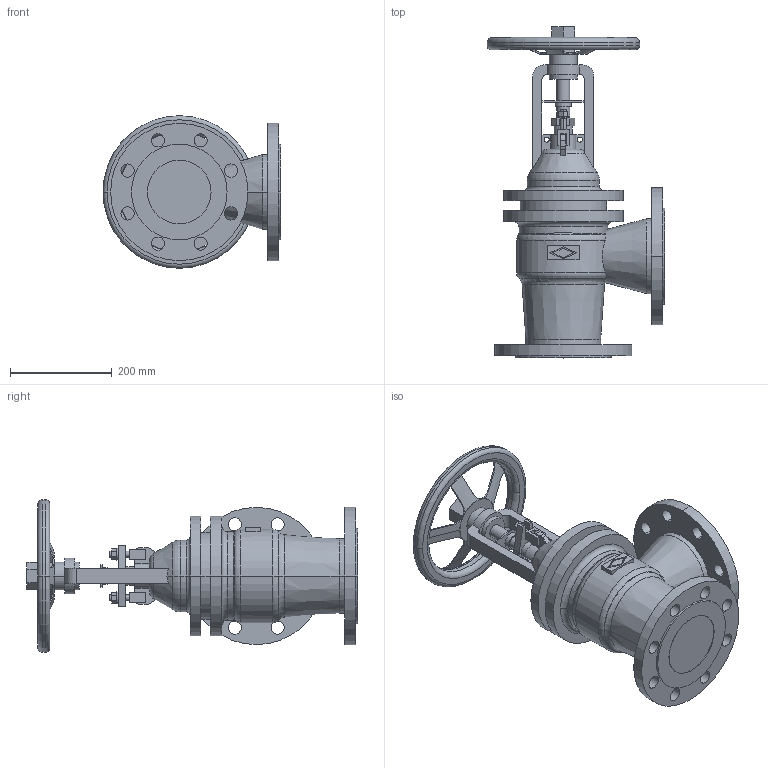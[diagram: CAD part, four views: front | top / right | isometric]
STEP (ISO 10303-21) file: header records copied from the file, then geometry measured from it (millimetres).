
FILE_DESCRIPTION(('OneSpaceDesigner STEP Export'),'2;1');
FILE_NAME('c000004443.stp','2010-05-17T 9:38:35',(''),(''),'OneSpace Designer STEP processor for AP214 (Solid Model)','OneSpace Modeling 15.50B 03-Nov-2007 (C) CoCreate Software GmbH','');
FILE_SCHEMA(('AUTOMOTIVE_DESIGN { 1 0 10303 214 1 1 1 1 }'));
Length unit declared in the file: millimetre
Products named in the file (1): 1
Bounding box: 350 x 652.7 x 300 mm (x, y, z)
Volume: 13579726.9 mm3; surface area: 799002.2 mm2
Topology: 1 solids, 1 shells, 339 faces, 913 edges, 597 vertices
Faces by surface type: cylinder 150, plane 145, torus 28, cone 16
Entity records: 13645 total; most frequent: CARTESIAN_POINT 2994, ORIENTED_EDGE 1826, DIRECTION 1406, EDGE_CURVE 913, VERTEX_POINT 597, AXIS2_PLACEMENT_3D 489, VECTOR 428, LINE 428
